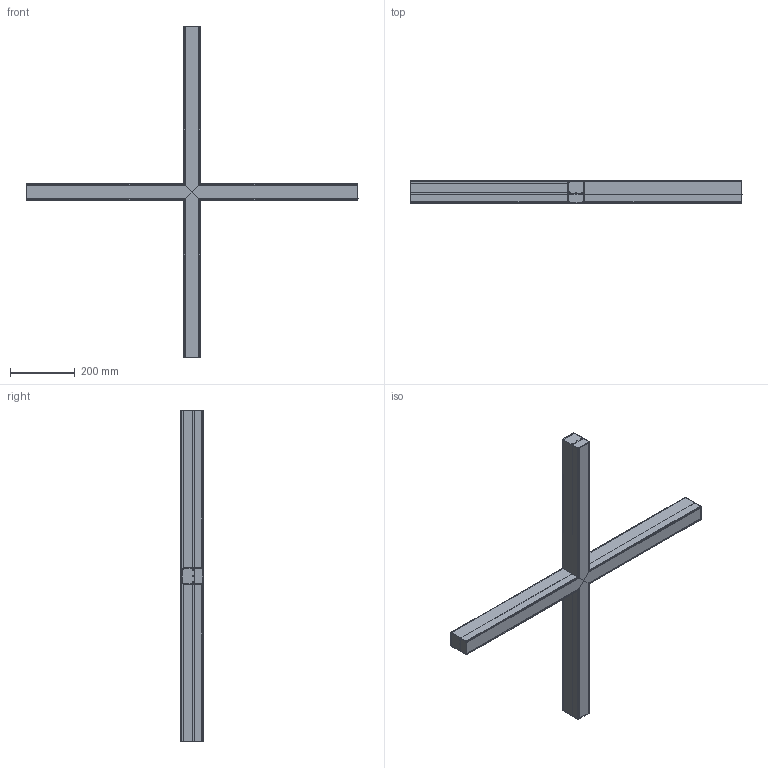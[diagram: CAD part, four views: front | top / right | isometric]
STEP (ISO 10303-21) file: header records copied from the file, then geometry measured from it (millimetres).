
FILE_DESCRIPTION(('STEP AP203'), '1');
FILE_NAME('Ìèêêî Êðîñ 40Âò', '', ('UNSPECIFIED'), ('UNSPECIFIED'), 'ASCON STEP Converter 1.6', 'ASCON Math Kernel', '');
FILE_SCHEMA(('CONFIG_CONTROL_DESIGN'));
Length unit declared in the file: millimetre
Products named in the file (5): -01
Assembly tree (8 placements, depth 3):
  (unnamed)
    (unnamed)
      (unnamed)  x2
    -01  x3
      (unnamed)
Bounding box: 1024.3 x 70 x 1024.3 mm (x, y, z)
Volume: 870963.5 mm3; surface area: 1343641.4 mm2
Topology: 21 solids, 21 shells, 1062 faces, 3019 edges, 2028 vertices
Faces by surface type: cylinder 496, plane 492, bspline 32, cone 24, torus 18
Full cylindrical faces by diameter (mm): 2.9 x8, 6.3 x8, 8 x1, 10 x2, 14 x2
Entity records: 16854 total; most frequent: CARTESIAN_POINT 3903, ORIENTED_EDGE 2760, DIRECTION 2426, EDGE_CURVE 1380, VERTEX_POINT 930, LINE 840, VECTOR 840, AXIS2_PLACEMENT_3D 793
